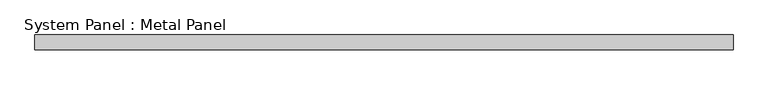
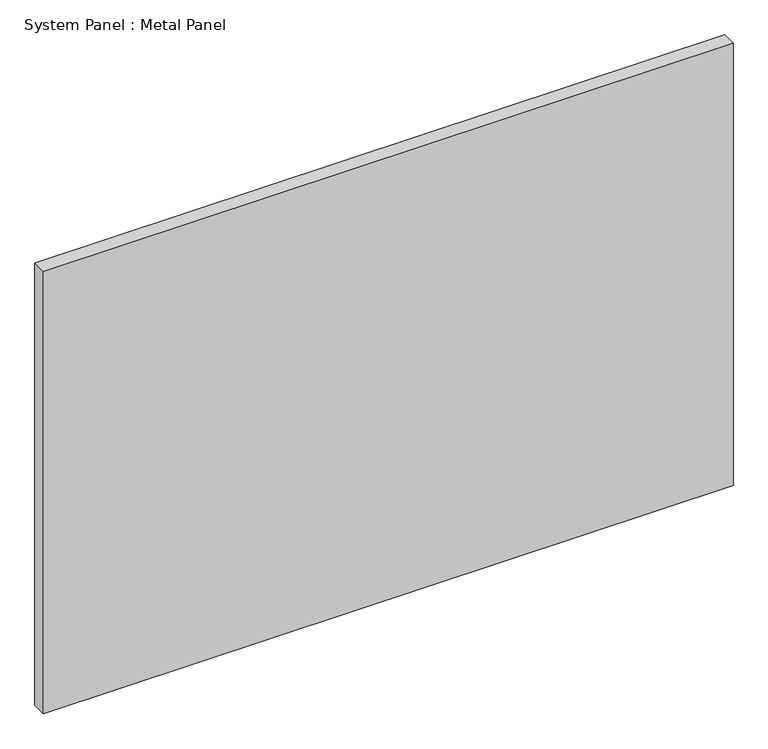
"""IFC4 building model written with IfcOpenShell, lengths in millimetres: plate geometry, System Panel : Metal Panel."""

from ifc_helpers import new_model, si_unit, origin, origin_with_axes, place, context, project, spatial, polyline, outline, extrude, source, transform, mapped, element, save


def system_panel_metal_panel_947f48db(model_context):
    return source(origin(), model_context, "Body", "SweptSolid", [
        extrude(outline(polyline([(603.7494819, 19.05), (-603.7494819, 19.05), (-603.7494819, 44.45), (603.7494819, 44.45), (603.7494819, 19.05)])), origin_with_axes(), (0.0, 0.0, 1.0), 819.15),
    ])


if __name__ == "__main__":
    model = new_model("IFC4")
    model_context = context("Model", 3, world=origin())
    ifc_project = project(units=[si_unit("LENGTHUNIT", "METRE", prefix="MILLI")], contexts=[model_context])
    site = spatial("IfcSite", under=ifc_project)
    building = spatial("IfcBuilding", under=site)
    placement = place(None, origin())
    system_panel_metal_panel_shape = system_panel_metal_panel_947f48db(model_context)
    element("IfcPlate", 1, ObjectType="System Panel : Metal Panel", at=placement, inside=building, context=model_context, shape_type="MappedRepresentation", body=[
        mapped(system_panel_metal_panel_shape, transform((0.0, 0.0, 0.0), x_axis=(1.0, 0.0, 0.0), y_axis=(0.0, 1.0, 0.0), z_axis=(0.0, 0.0, 1.0))),
    ])
    save(model, "model.ifc")
